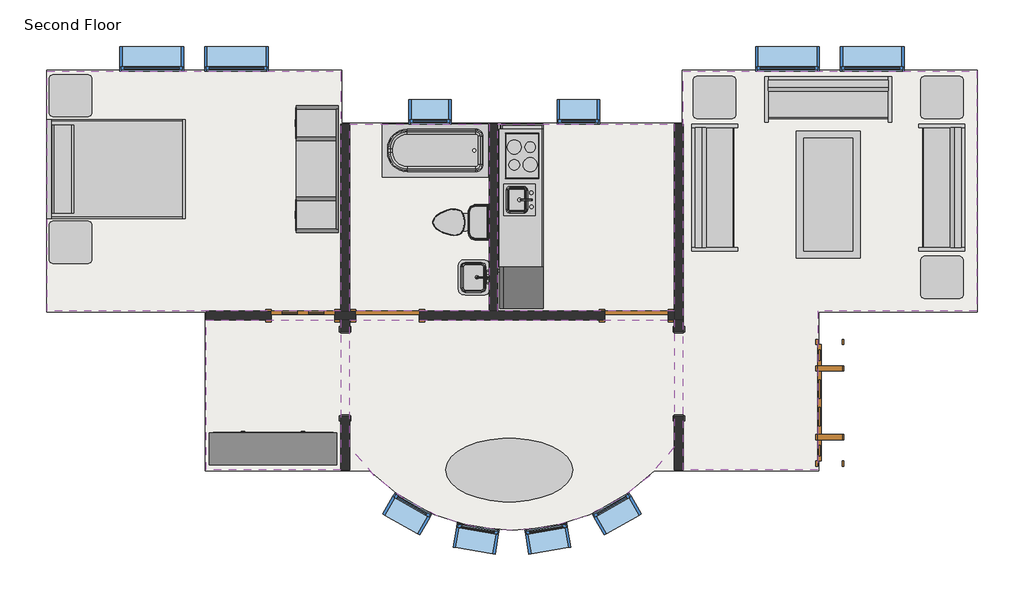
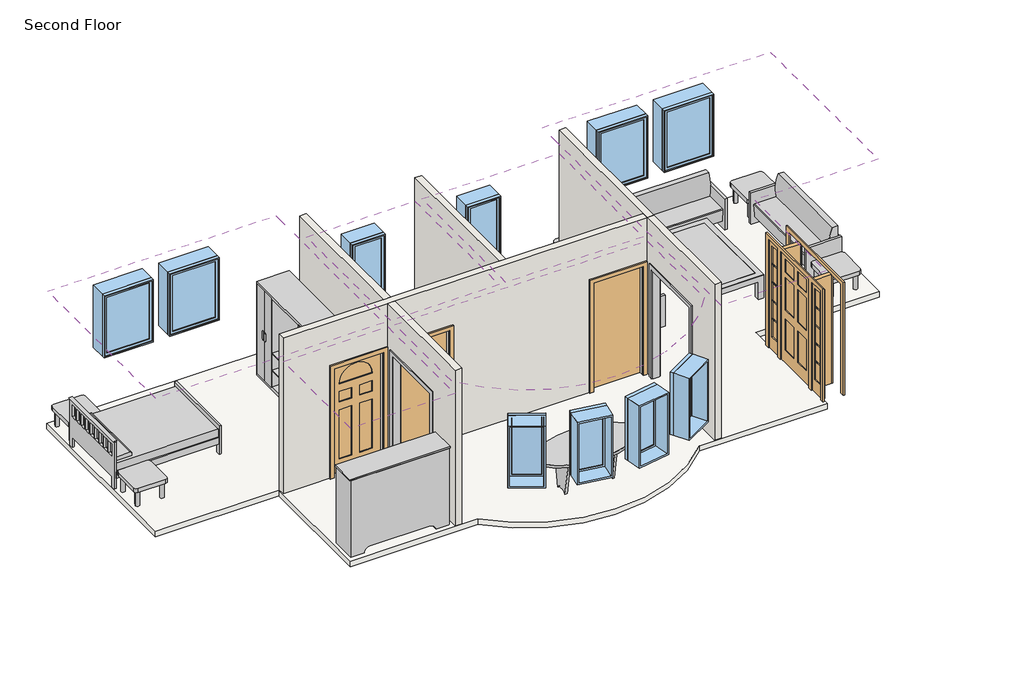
# One storey: 13 furniture elements, 10 windows, 6 coverings, 6 walls, 4 doors, 3 flow terminals, 3 proxies, 1 slab.
"""IFC4 building model written with IfcOpenShell, lengths in millimetres."""

from ifc_helpers import new_model, si_unit, point, frame, frame_2d, origin, place, context, project, spatial, polyline, circle_curve, trimmed, segment, composite_curve, outline, extrude, faceted_brep, transform, mapped, element, save
from components import kitchenette_medium_5_9f73a4de, proxy_f44482cc, door_2e3b4da2, door_a1797ceb, door_a3eb833a, door_dba5aa2e, flow_terminal_0aeb31e3, toilet_domestic_3d_toilet_domestic_3d_f7549cf7, toilet_domestic_3d_toilet_domestic_3d_183bbd19, tub_rectangular_3d_tub_rectangular_3d_7c57b2e9, furniture_096e7f55, furniture_7c473f12, furniture_ddc78764, furniture_4ef38d96, furniture_dde8a40a, furniture_cd93a443, furniture_fe1f7ef6, furniture_3a588284, furniture_1befe2a2, window_60baf983, window_ed80354a, window_15c49d37

model = new_model("IFC4")

# Units and contexts
model_context = context("Model", 3, world=origin())
ifc_project = project(units=[si_unit("LENGTHUNIT", "METRE", prefix="MILLI")], contexts=[model_context])

# Site, building, storey
site = spatial("IfcSite", under=ifc_project)
building = spatial("IfcBuilding", under=site)
storey = spatial("IfcBuildingStorey", under=building, Name="Second Floor", Elevation=3048.0)

# Proxies
placement = place(None, origin())
kitchenette_medium_5_shape = kitchenette_medium_5_9f73a4de(model_context)
element("IfcBuildingElementProxy", 1, Name="Kitchenette - Medium : 5'", ObjectType="Kitchenette - Medium : 5'", at=placement, inside=storey, context=model_context, shape_type="MappedRepresentation", body=[
    mapped(kitchenette_medium_5_shape, transform((2117.6576571, 10885.525963, 3048.0), x_axis=(0.0, -1.0, 0.0), y_axis=(1.0, 0.0, 0.0), z_axis=(0.0, 0.0, 1.0))),
])
proxy_shape = proxy_f44482cc(model_context)
element("IfcBuildingElementProxy", 2, Name="Opening-Cased : 48\" x 84\"", ObjectType="Opening-Cased : 48\" x 84\"", at=placement, inside=storey, context=model_context, shape_type="MappedRepresentation", body=[
    mapped(proxy_shape, transform((-732.7404149, 8023.3246014, 3048.0), x_axis=(0.0, -1.0, 0.0), y_axis=(1.0, 0.0, 0.0), z_axis=(0.0, 0.0, 1.0))),
])
element("IfcBuildingElementProxy", 3, Name="Opening-Cased : 48\" x 84\"", ObjectType="Opening-Cased : 48\" x 84\"", at=placement, inside=storey, context=model_context, shape_type="MappedRepresentation", body=[
    mapped(proxy_shape, transform((4064.6845851, 8039.7019148, 3048.0), x_axis=(0.0, 1.0, 0.0), y_axis=(-1.0, 0.0, 0.0), z_axis=(0.0, 0.0, 1.0))),
])

# Coverings
element("IfcCovering", 4, ObjectType="GWB on Mtl. Stud", at=placement, inside=storey, context=model_context, shape_type="SweptSolid", body=[
    extrude(outline(polyline([(-2906.0279149, 8933.2132581), (-5015.8154149, 8933.2132581), (-5015.8154149, 12390.7882581), (-796.2404149, 12390.7882581), (-796.2404149, 11805.0007581), (-796.2404149, 8933.2132581), (-2906.0279149, 8933.2132581)])), frame((0.0, 0.0, 5638.8), z_axis=(0.0, 0.0, 1.0), x_axis=(1.0, 0.0, 0.0)), (0.0, 0.0, 1.0), 107.95),
])
element("IfcCovering", 5, ObjectType="GWB on Mtl. Stud", at=placement, inside=storey, context=model_context, shape_type="SweptSolid", body=[
    extrude(outline(polyline([(-669.2404149, 8933.2132581), (-669.2404149, 11628.7882581), (1337.3595851, 11628.7882581), (1337.3595851, 8933.2132581), (-669.2404149, 8933.2132581)])), frame((0.0, 0.0, 5638.8), z_axis=(0.0, 0.0, 1.0), x_axis=(1.0, 0.0, 0.0)), (0.0, 0.0, 1.0), 107.95),
])
element("IfcCovering", 6, ObjectType="GWB on Mtl. Stud", at=placement, inside=storey, context=model_context, shape_type="SweptSolid", body=[
    extrude(outline(polyline([(1464.3595851, 11628.7882581), (4001.1845851, 11628.7882581), (4001.1845851, 8933.2132581), (1464.3595851, 8933.2132581), (1464.3595851, 11628.7882581)])), frame((0.0, 0.0, 5638.8), z_axis=(0.0, 0.0, 1.0), x_axis=(1.0, 0.0, 0.0)), (0.0, 0.0, 1.0), 107.95),
])
element("IfcCovering", 7, ObjectType="GWB on Mtl. Stud", at=placement, inside=storey, context=model_context, shape_type="SweptSolid", body=[
    extrude(outline(polyline([(8347.7595851, 12390.7882581), (8347.7595851, 8933.2132581), (6061.7595851, 8933.2132581), (6061.7595851, 6647.2132581), (4128.1845851, 6647.2132581), (4128.1845851, 8869.7132581), (4128.1845851, 11805.0007581), (4128.1845851, 12390.7882581), (8347.7595851, 12390.7882581)])), frame((0.0, 0.0, 5638.8), z_axis=(0.0, 0.0, 1.0), x_axis=(1.0, 0.0, 0.0)), (0.0, 0.0, 1.0), 107.95),
])
element("IfcCovering", 8, ObjectType="GWB on Mtl. Stud", at=placement, inside=storey, context=model_context, shape_type="SweptSolid", body=[
    extrude(outline(composite_curve([segment(trimmed(circle_curve(frame_2d((1665.9720851, 8647.7081431)), 2871.7875), [point((4001.1845851, 6976.19804))], [point((-669.2404149, 6976.19804))], False, "CARTESIAN"), True, "CONTINUOUS"), segment(polyline([(-669.2404149, 6976.19804), (-669.2404149, 8806.2132581), (4001.1845851, 8806.2132581), (4001.1845851, 6976.19804)]), True, "CONTINUOUS")], self_intersect=False)), frame((0.0, 0.0, 5638.8), z_axis=(0.0, 0.0, 1.0), x_axis=(1.0, 0.0, 0.0)), (0.0, 0.0, 1.0), 107.95),
])
element("IfcCovering", 9, ObjectType="GWB on Mtl. Stud", at=placement, inside=storey, context=model_context, shape_type="SweptSolid", body=[
    extrude(outline(polyline([(-796.2404149, 6647.2132581), (-2729.8154149, 6647.2132581), (-2729.8154149, 8806.2132581), (-796.2404149, 8806.2132581), (-796.2404149, 6647.2132581)])), frame((0.0, 0.0, 5638.8), z_axis=(0.0, 0.0, 1.0), x_axis=(1.0, 0.0, 0.0)), (0.0, 0.0, 1.0), 107.95),
])

# Doors
door_shape = door_2e3b4da2(model_context)
element("IfcDoor", 10, ObjectType="Single-Decorative 2 : 36\" x 84\"", at=placement, inside=storey, context=model_context, shape_type="MappedRepresentation", body=[
    mapped(door_shape, transform((-1342.3404149, 8869.7132581, 3048.0), x_axis=(1.0, 0.0, 0.0), y_axis=(0.0, 1.0, 0.0), z_axis=(0.0, 0.0, 1.0))),
])
door_2_shape = door_a1797ceb(model_context)
element("IfcDoor", 11, ObjectType="Single-Flush : 36\" x 84\"", at=placement, inside=storey, context=model_context, shape_type="MappedRepresentation", body=[
    mapped(door_2_shape, transform((3455.0845851, 8869.7132581, 3048.0), x_axis=(1.0, 0.0, 0.0), y_axis=(0.0, 1.0, 0.0), z_axis=(0.0, 0.0, 1.0))),
])
door_3_shape = door_a3eb833a(model_context)
element("IfcDoor", 12, ObjectType="Single-Flush : 36\" x 84\"", at=placement, inside=storey, context=model_context, shape_type="MappedRepresentation", body=[
    mapped(door_3_shape, transform((-123.1404149, 8869.7132581, 3048.0), x_axis=(-1.0, 0.0, 0.0), y_axis=(0.0, -1.0, 0.0), z_axis=(0.0, 0.0, 1.0))),
])
door_4_shape = door_dba5aa2e(model_context)
element("IfcDoor", 13, ObjectType="Single-Raised Panel with Sidelights : 36\" x 84\"", at=placement, inside=storey, context=model_context, shape_type="MappedRepresentation", body=[
    mapped(door_4_shape, transform((6237.9720851, 7614.0007581, 3048.0), x_axis=(0.0, -1.0, 0.0), y_axis=(1.0, 0.0, 0.0), z_axis=(0.0, 0.0, 1.0))),
])

# Flow terminals
flow_terminal_shape = flow_terminal_0aeb31e3(model_context)
element("IfcFlowTerminal", 14, ObjectType="Sink Vanity-Square : 24\" x 19\"", at=placement, inside=storey, context=model_context, shape_type="MappedRepresentation", body=[
    mapped(flow_terminal_shape, transform((1157.214184, 9434.4995407, 3048.0), x_axis=(0.0, -1.0, 0.0), y_axis=(1.0, 0.0, 0.0), z_axis=(0.0, 0.0, 1.0))),
])
toilet_domestic_3d_toilet_domestic_3d_shape = toilet_domestic_3d_toilet_domestic_3d_f7549cf7(model_context)
toilet_domestic_3d_toilet_domestic_3d_2_shape = toilet_domestic_3d_toilet_domestic_3d_183bbd19(model_context)
element("IfcFlowTerminal", 15, ObjectType="Toilet-Domestic-3D : Toilet-Domestic-3D", at=placement, inside=storey, context=model_context, shape_type="MappedRepresentation", body=[
    mapped(toilet_domestic_3d_toilet_domestic_3d_shape, transform((831.6983718, 10214.097778, 3048.0), x_axis=(0.0, -1.0000000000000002, 0.0), y_axis=(1.0000000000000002, 0.0, 0.0), z_axis=(0.0, 0.0, 1.0))),
    mapped(toilet_domestic_3d_toilet_domestic_3d_2_shape, transform((831.6983718, 10214.097778, 3048.0), x_axis=(0.0, -1.0000000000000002, 0.0), y_axis=(1.0000000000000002, 0.0, 0.0), z_axis=(0.0, 0.0, 1.0))),
])
tub_rectangular_3d_tub_rectangular_3d_shape = tub_rectangular_3d_tub_rectangular_3d_7c57b2e9(model_context)
element("IfcFlowTerminal", 16, ObjectType="Tub-Rectangular-3D : Tub-Rectangular-3D", at=placement, inside=storey, context=model_context, shape_type="MappedRepresentation", body=[
    mapped(tub_rectangular_3d_tub_rectangular_3d_shape, transform((214.0566164, 11805.0007581, 3048.0), x_axis=(-0.9999999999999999, 0.0, 0.0), y_axis=(0.0, -0.9999999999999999, 0.0), z_axis=(0.0, 0.0, 1.0))),
])

# Furniture
furniture_shape = furniture_096e7f55(model_context)
element("IfcFurniture", 17, ObjectType="Bed-Shaker : Double 56\" x 78\"", at=placement, inside=storey, context=model_context, shape_type="MappedRepresentation", body=[
    mapped(furniture_shape, transform((-5013.1126898, 10998.5900785, 3048.0), x_axis=(0.0, 1.0, 0.0), y_axis=(-1.0, 0.0, 0.0), z_axis=(0.0, 0.0, 1.0))),
])
furniture_2_shape = furniture_7c473f12(model_context)
element("IfcFurniture", 18, ObjectType="Dresser : 72\" x 60\" x 18\"", at=placement, inside=storey, context=model_context, shape_type="MappedRepresentation", body=[
    mapped(furniture_2_shape, transform((-2039.8604591, 6588.850304, 3048.0), x_axis=(-1.0, 0.0, 0.0), y_axis=(0.0, -1.0, 0.0), z_axis=(0.0, 0.0, 1.0))),
])
furniture_3_shape = furniture_ddc78764(model_context)
element("IfcFurniture", 19, ObjectType="Entertainment Center : 72\" x 72\" x 24\"", at=placement, inside=storey, context=model_context, shape_type="MappedRepresentation", body=[
    mapped(furniture_3_shape, transform((-733.8851408, 10979.5400785, 3048.0), x_axis=(0.0, -1.0, 0.0), y_axis=(1.0, 0.0, 0.0), z_axis=(0.0, 0.0, 1.0))),
])
furniture_4_shape = furniture_4ef38d96(model_context)
element("IfcFurniture", 20, ObjectType="Sofa : 72\"", at=placement, inside=storey, context=model_context, shape_type="MappedRepresentation", body=[
    mapped(furniture_4_shape, transform((6143.7890933, 11835.0591598, 3048.0), x_axis=(1.0, 0.0, 0.0), y_axis=(0.0, 1.0, 0.0), z_axis=(0.0, 0.0, 1.0))),
])
element("IfcFurniture", 21, ObjectType="Sofa : 72\"", at=placement, inside=storey, context=model_context, shape_type="MappedRepresentation", body=[
    mapped(furniture_4_shape, transform((4726.0692419, 10644.2919955, 3048.0), x_axis=(0.0, 1.0, 0.0), y_axis=(-1.0, 0.0, 0.0), z_axis=(0.0, 0.0, 1.0))),
])
furniture_5_shape = furniture_dde8a40a(model_context)
element("IfcFurniture", 22, ObjectType="Sofa : 72\"", at=placement, inside=storey, context=model_context, shape_type="MappedRepresentation", body=[
    mapped(furniture_5_shape, transform((7702.2499284, 10644.2919955, 3048.0), x_axis=(0.0, 1.0, 0.0), y_axis=(-1.0, 0.0, 0.0), z_axis=(0.0, 0.0, 1.0))),
])
furniture_6_shape = furniture_cd93a443(model_context)
element("IfcFurniture", 23, ObjectType="Table-Coffee : 36\" x 72\" x 18\"", at=placement, inside=storey, context=model_context, shape_type="MappedRepresentation", body=[
    mapped(furniture_6_shape, transform((6118.9485073, 10627.8790248, 3048.0), x_axis=(0.0, -1.0, 0.0), y_axis=(1.0, 0.0, 0.0), z_axis=(0.0, 0.0, 1.0))),
])
furniture_7_shape = furniture_fe1f7ef6(model_context)
element("IfcFurniture", 24, ObjectType="Table-Ellipse : 72\" x 36\"", at=placement, inside=storey, context=model_context, shape_type="MappedRepresentation", body=[
    mapped(furniture_7_shape, transform((1626.2845851, 6647.2132581, 3048.0), x_axis=(1.0, 0.0, 0.0), y_axis=(0.0, 1.0, 0.0), z_axis=(0.0, 0.0, 1.0))),
])
furniture_8_shape = furniture_3a588284(model_context)
element("IfcFurniture", 25, ObjectType="Table-End : 24\" x 24\"", at=placement, inside=storey, context=model_context, shape_type="MappedRepresentation", body=[
    mapped(furniture_8_shape, transform((4271.3815133, 11857.6624873, 3048.0), x_axis=(1.0, 0.0, 0.0), y_axis=(0.0, 1.0, 0.0), z_axis=(0.0, 0.0, 1.0))),
])
element("IfcFurniture", 26, ObjectType="Table-End : 24\" x 24\"", at=placement, inside=storey, context=model_context, shape_type="MappedRepresentation", body=[
    mapped(furniture_8_shape, transform((-4994.1490451, 11882.7882581, 3048.0), x_axis=(1.0, 0.0, 0.0), y_axis=(0.0, 1.0, 0.0), z_axis=(0.0, 0.0, 1.0))),
])
element("IfcFurniture", 27, ObjectType="Table-End : 24\" x 24\"", at=placement, inside=storey, context=model_context, shape_type="MappedRepresentation", body=[
    mapped(furniture_8_shape, transform((8156.937657, 9571.6624873, 3048.0), x_axis=(-1.0, 0.0, 0.0), y_axis=(0.0, -1.0, 0.0), z_axis=(0.0, 0.0, 1.0))),
])
furniture_9_shape = furniture_1befe2a2(model_context)
element("IfcFurniture", 28, ObjectType="Table-End : 24\" x 24\"", at=placement, inside=storey, context=model_context, shape_type="MappedRepresentation", body=[
    mapped(furniture_9_shape, transform((-4994.1490451, 10076.2918989, 3048.0), x_axis=(1.0, 0.0, 0.0), y_axis=(0.0, 1.0, 0.0), z_axis=(0.0, 0.0, 1.0))),
])
element("IfcFurniture", 29, ObjectType="Table-End : 24\" x 24\"", at=placement, inside=storey, context=model_context, shape_type="MappedRepresentation", body=[
    mapped(furniture_9_shape, transform((8156.937657, 11857.6624873, 3048.0), x_axis=(-1.0, 0.0, 0.0), y_axis=(0.0, -1.0, 0.0), z_axis=(0.0, 0.0, 1.0))),
])

# Slab
element("IfcSlab", 30, ObjectType="LW Concrete on Metal Deck", at=placement, inside=storey, context=model_context, shape_type="SweptSolid", body=[
    extrude(outline(composite_curve([segment(polyline([(-783.5404149, 12403.4882581), (-783.5404149, 11641.4882581), (4115.4845851, 11641.4882581), (4115.4845851, 12403.4882581), (8360.4595851, 12403.4882581), (8360.4595851, 8920.5132581), (6074.4595851, 8920.5132581), (6074.4595851, 6634.5132581), (3713.949087, 6634.5132581)]), True, "CONTINUOUS"), segment(trimmed(circle_curve(frame_2d((1665.9720851, 8647.7081431)), 2871.7875), [point((3713.949087, 6634.5132581))], [point((-382.0049167, 6634.5132581))], False, "CARTESIAN"), True, "CONTINUOUS"), segment(polyline([(-382.0049167, 6634.5132581), (-2742.5154149, 6634.5132581), (-2742.5154149, 8920.5132581), (-5028.5154149, 8920.5132581), (-5028.5154149, 12403.4882581), (-783.5404149, 12403.4882581)]), True, "CONTINUOUS")], self_intersect=False)), frame((0.0, 0.0, 2943.225), z_axis=(0.0, 0.0, 1.0), x_axis=(1.0, 0.0, 0.0)), (0.0, 0.0, 1.0), 104.775),
])

# Walls
element("IfcWall", 31, ObjectType="Interior - 5\" Partition (2-hr)", at=placement, inside=storey, context=model_context, shape_type="Brep", body=[
    faceted_brep([(4001.1845851, 11628.7882581, 3048.0), (4001.1845851, 8933.2132581, 3048.0), (4001.1845851, 8806.2132581, 3048.0), (4001.1845851, 8806.2132581, 6096.0), (4001.1845851, 8933.2132581, 6096.0), (4001.1845851, 11628.7882581, 6096.0), (4128.1845851, 11628.7882581, 3048.0), (4128.1845851, 11628.7882581, 6096.0), (4128.1845851, 8806.2132581, 6096.0), (4128.1845851, 8806.2132581, 3048.0)], [[[0, 1, 2, 3, 4, 5]], [[6, 7, 8, 9]], [[2, 1, 0, 6, 9]], [[5, 4, 3, 8, 7]], [[3, 2, 9, 8]], [[0, 5, 7, 6]]]),
])
element("IfcWall", 32, ObjectType="Interior - 5\" Partition (2-hr)", at=placement, inside=storey, context=model_context, shape_type="Brep", body=[
    faceted_brep([(-885.1404149, 8806.2132581, 5181.6), (-885.1404149, 8806.2132581, 3048.0), (-796.2404149, 8806.2132581, 3048.0), (-669.2404149, 8806.2132581, 3048.0), (-580.3404149, 8806.2132581, 3048.0), (-580.3404149, 8806.2132581, 5181.6), (334.0595851, 8806.2132581, 5181.6), (334.0595851, 8806.2132581, 3048.0), (2997.8845851, 8806.2132581, 3048.0), (2997.8845851, 8806.2132581, 5181.6), (3912.2845851, 8806.2132581, 5181.6), (3912.2845851, 8806.2132581, 3048.0), (4001.1845851, 8806.2132581, 3048.0), (4001.1845851, 8806.2132581, 6096.0), (-669.2404149, 8806.2132581, 6096.0), (-796.2404149, 8806.2132581, 6096.0), (-2729.8154149, 8806.2132581, 6096.0), (-2729.8154149, 8806.2132581, 3048.0), (-1799.5404149, 8806.2132581, 3048.0), (-1799.5404149, 8806.2132581, 5181.6), (-580.3404149, 8933.2132581, 3048.0), (-669.2404149, 8933.2132581, 3048.0), (-796.2404149, 8933.2132581, 3048.0), (-885.1404149, 8933.2132581, 3048.0), (-885.1404149, 8933.2132581, 5181.6), (-1799.5404149, 8933.2132581, 5181.6), (-1799.5404149, 8933.2132581, 3048.0), (-2729.8154149, 8933.2132581, 3048.0), (-2729.8154149, 8933.2132581, 6096.0), (-796.2404149, 8933.2132581, 6096.0), (-669.2404149, 8933.2132581, 6096.0), (1337.3595851, 8933.2132581, 6096.0), (1464.3595851, 8933.2132581, 6096.0), (4001.1845851, 8933.2132581, 6096.0), (4001.1845851, 8933.2132581, 3048.0), (3912.2845851, 8933.2132581, 3048.0), (3912.2845851, 8933.2132581, 5181.6), (2997.8845851, 8933.2132581, 5181.6), (2997.8845851, 8933.2132581, 3048.0), (1464.3595851, 8933.2132581, 3048.0), (1337.3595851, 8933.2132581, 3048.0), (334.0595851, 8933.2132581, 3048.0), (334.0595851, 8933.2132581, 5181.6), (-580.3404149, 8933.2132581, 5181.6)], [[[0, 1, 2, 3, 4, 5, 6, 7, 8, 9, 10, 11, 12, 13, 14, 15, 16, 17, 18, 19]], [[20, 21, 22, 23, 24, 25, 26, 27, 28, 29, 30, 31, 32, 33, 34, 35, 36, 37, 38, 39, 40, 41, 42, 43]], [[12, 11, 35, 34]], [[4, 3, 2, 1, 23, 22, 21, 20]], [[41, 40, 39, 38, 8, 7]], [[18, 17, 27, 26]], [[16, 15, 14, 13, 33, 32, 31, 30, 29, 28]], [[13, 12, 34, 33]], [[17, 16, 28, 27]], [[36, 35, 11, 10]], [[37, 36, 10, 9]], [[38, 37, 9, 8]], [[5, 4, 20, 43]], [[6, 5, 43, 42]], [[7, 6, 42, 41]], [[24, 23, 1, 0]], [[25, 24, 0, 19]], [[26, 25, 19, 18]]]),
])
element("IfcWall", 33, ObjectType="Interior - 5\" Partition (2-hr)", at=placement, inside=storey, context=model_context, shape_type="SweptSolid", body=[
    extrude(outline(polyline([(-796.2404149, 8933.2132581), (-796.2404149, 11628.7882581), (-669.2404149, 11628.7882581), (-669.2404149, 8933.2132581), (-796.2404149, 8933.2132581)])), frame((0.0, 0.0, 3048.0), z_axis=(0.0, 0.0, 1.0), x_axis=(1.0, 0.0, 0.0)), (0.0, 0.0, 1.0), 3048.0),
])
element("IfcWall", 34, ObjectType="Interior - 5\" Partition (2-hr)", at=placement, inside=storey, context=model_context, shape_type="SweptSolid", body=[
    extrude(outline(polyline([(1464.3595851, 11628.7882581), (1464.3595851, 8933.2132581), (1337.3595851, 8933.2132581), (1337.3595851, 11628.7882581), (1464.3595851, 11628.7882581)])), frame((0.0, 0.0, 3048.0), z_axis=(0.0, 0.0, 1.0), x_axis=(1.0, 0.0, 0.0)), (0.0, 0.0, 1.0), 3048.0),
])
element("IfcWall", 35, ObjectType="Interior - 5\" Partition (2-hr)", at=placement, inside=storey, context=model_context, shape_type="SweptSolid", body=[
    extrude(outline(polyline([(7421.9132581, 5181.6), (7421.9132581, 3048.0), (6647.2132581, 3048.0), (6647.2132581, 6096.0), (8806.2132581, 6096.0), (8806.2132581, 3048.0), (8641.1132581, 3048.0), (8641.1132581, 5181.6), (7421.9132581, 5181.6)])), frame((-796.2404149, 0.0, 0.0), z_axis=(1.0, 0.0, 0.0), x_axis=(0.0, 1.0, 0.0)), (0.0, 0.0, 1.0), 127.0),
])
element("IfcWall", 36, ObjectType="Interior - 5\" Partition (2-hr)", at=placement, inside=storey, context=model_context, shape_type="SweptSolid", body=[
    extrude(outline(polyline([(8806.2132581, 3048.0), (8641.1132581, 3048.0), (8641.1132581, 5181.6), (7421.9132581, 5181.6), (7421.9132581, 3048.0), (6647.2132581, 3048.0), (6647.2132581, 6096.0), (8806.2132581, 6096.0), (8806.2132581, 3048.0)])), frame((4001.1845851, 0.0, 0.0), z_axis=(1.0, 0.0, 0.0), x_axis=(0.0, 1.0, 0.0)), (0.0, 0.0, 1.0), 127.0),
])

# Windows
window_shape = window_60baf983(model_context)
element("IfcWindow", 37, ObjectType="Fixed : 24\" x 48\"", at=placement, inside=storey, context=model_context, shape_type="MappedRepresentation", body=[
    mapped(window_shape, transform((2581.9595851, 11805.0007581, 3048.0), x_axis=(-0.9999999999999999, 0.0, 0.0), y_axis=(0.0, -0.9999999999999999, 0.0), z_axis=(0.0, 0.0, 1.0))),
])
element("IfcWindow", 38, ObjectType="Fixed : 24\" x 48\"", at=placement, inside=storey, context=model_context, shape_type="MappedRepresentation", body=[
    mapped(window_shape, transform((448.3595851, 11805.0007581, 3048.0), x_axis=(-0.9999999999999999, 0.0, 0.0), y_axis=(0.0, -0.9999999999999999, 0.0), z_axis=(0.0, 0.0, 1.0))),
])
element("IfcWindow", 39, ObjectType="Fixed : 24\" x 48\"", at=placement, inside=storey, context=model_context, shape_type="MappedRepresentation", body=[
    mapped(window_shape, transform((194.709276, 5996.5722256, 3048.0), x_axis=(0.8682133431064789, -0.4961910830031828, 0.0), y_axis=(0.4961910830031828, 0.8682133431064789, 0.0), z_axis=(0.0, 0.0, 1.0))),
])
element("IfcWindow", 40, ObjectType="Fixed : 24\" x 48\"", at=placement, inside=storey, context=model_context, shape_type="MappedRepresentation", body=[
    mapped(window_shape, transform((1188.928449, 5653.4527639, 3048.0), x_axis=(0.9854902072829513, -0.1697322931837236, 0.0), y_axis=(0.1697322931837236, 0.9854902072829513, 0.0), z_axis=(0.0, 0.0, 1.0))),
])
window_2_shape = window_ed80354a(model_context)
element("IfcWindow", 41, ObjectType="Fixed : 24\" x 48\"", at=placement, inside=storey, context=model_context, shape_type="MappedRepresentation", body=[
    mapped(window_2_shape, transform((3137.2348943, 5996.5722256, 3048.0), x_axis=(-0.8682133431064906, -0.49619108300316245, 0.0), y_axis=(0.49619108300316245, -0.8682133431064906, 0.0), z_axis=(0.0, 0.0, 1.0))),
])
element("IfcWindow", 42, ObjectType="Fixed : 24\" x 48\"", at=placement, inside=storey, context=model_context, shape_type="MappedRepresentation", body=[
    mapped(window_2_shape, transform((2143.0157213, 5653.4527639, 3048.0), x_axis=(-0.9854902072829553, -0.16973229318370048, 0.0), y_axis=(0.16973229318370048, -0.9854902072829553, 0.0), z_axis=(0.0, 0.0, 1.0))),
])
window_3_shape = window_15c49d37(model_context)
element("IfcWindow", 43, ObjectType="Fixed : 36\" x 48\"", at=placement, inside=storey, context=model_context, shape_type="MappedRepresentation", body=[
    mapped(window_3_shape, transform((-3553.7279149, 12567.0007581, 3048.0), x_axis=(-1.0, 0.0, 0.0), y_axis=(0.0, -1.0, 0.0), z_axis=(0.0, 0.0, 1.0))),
])
element("IfcWindow", 44, ObjectType="Fixed : 36\" x 48\"", at=placement, inside=storey, context=model_context, shape_type="MappedRepresentation", body=[
    mapped(window_3_shape, transform((-2334.5279149, 12567.0007581, 3048.0), x_axis=(-1.0, 0.0, 0.0), y_axis=(0.0, -1.0, 0.0), z_axis=(0.0, 0.0, 1.0))),
])
element("IfcWindow", 45, ObjectType="Fixed : 36\" x 48\"", at=placement, inside=storey, context=model_context, shape_type="MappedRepresentation", body=[
    mapped(window_3_shape, transform((6809.4720851, 12567.0007581, 3048.0), x_axis=(-1.0, 0.0, 0.0), y_axis=(0.0, -1.0, 0.0), z_axis=(0.0, 0.0, 1.0))),
])
element("IfcWindow", 46, ObjectType="Fixed : 36\" x 48\"", at=placement, inside=storey, context=model_context, shape_type="MappedRepresentation", body=[
    mapped(window_3_shape, transform((5590.2720851, 12567.0007581, 3048.0), x_axis=(-1.0, 0.0, 0.0), y_axis=(0.0, -1.0, 0.0), z_axis=(0.0, 0.0, 1.0))),
])

save(model, "model.ifc")
